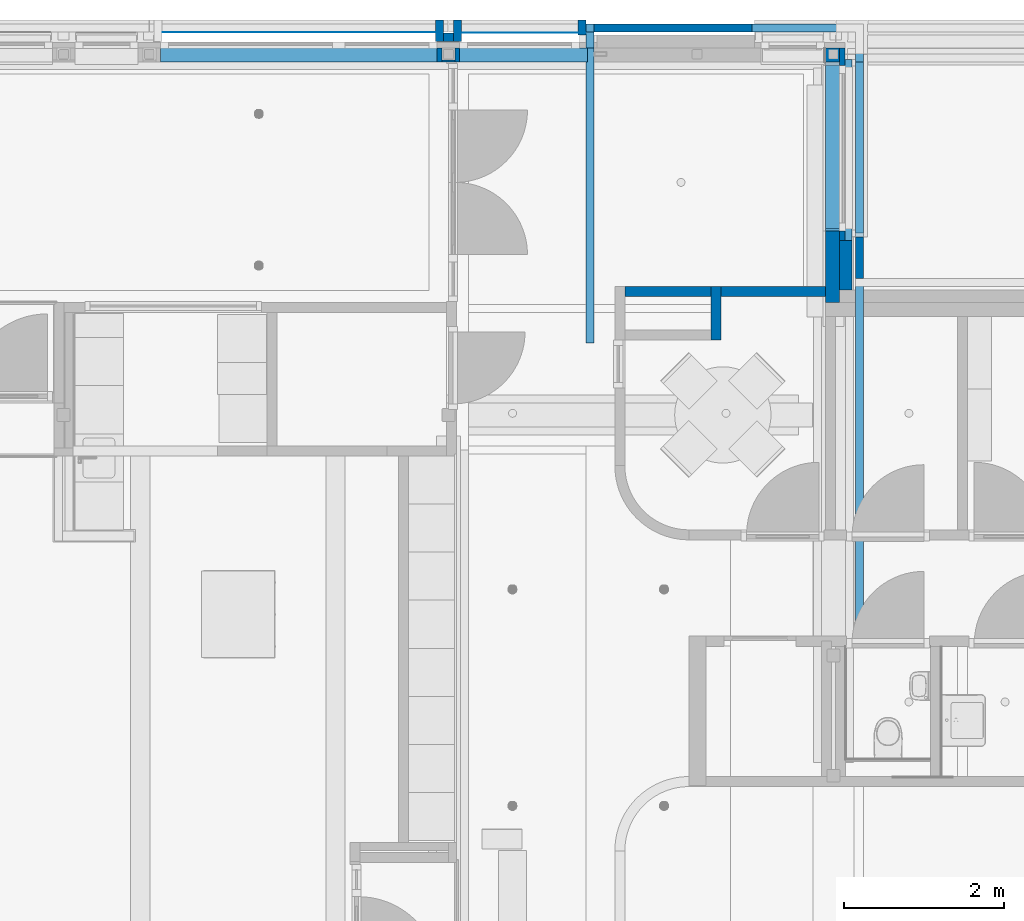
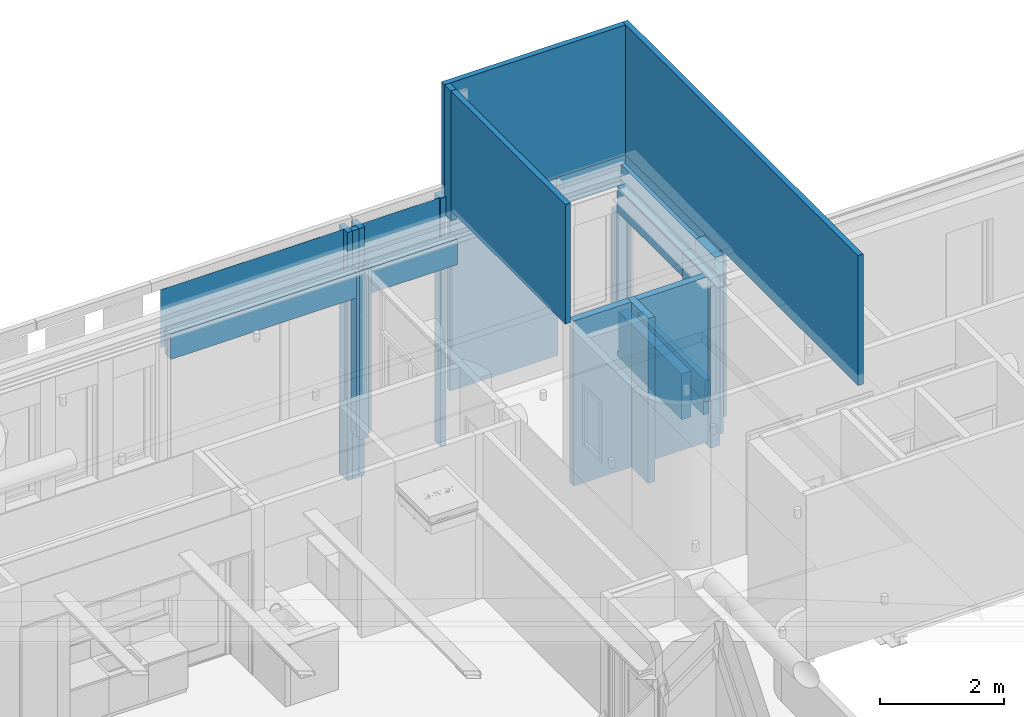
# One storey, part 57 of 128: 29 walls, 10 openings.
"""IFC2X3 building model written with IfcOpenShell, lengths in millimetres."""

import ifcopenshell
import ifcopenshell.guid

model = None  # the IFC model being written
_history = None  # IfcOwnerHistory: only IFC2X3 demands one
_inside = {}  # id of a spatial element -> (the spatial element, [elements in it])
_under = {}  # id of a project, library or spatial element -> (it, [spatial elements below it])
_declared = {}  # id of a project -> (the project, [libraries it declares])
_typed = {}  # id of a type object -> (the type object, [elements of that type])
_made_of = {}  # id of a material, layer set ... -> (it, [elements and type objects made of it])


def new_model(schema):
    """Start an empty IFC model of exactly this schema.

    Asked for "IFC4X3", IfcOpenShell would pick the latest addendum, in which some entities
    have other attributes; the version numbers below select the first issue.
    IFC2X3 requires an IfcOwnerHistory on every rooted entity: one is made here for all.
    """
    global model, _history
    if schema == "IFC4X3":
        model = ifcopenshell.file(schema_version=(4, 3, 0, 0))
    else:
        model = ifcopenshell.file(schema=schema)
    _inside.clear()
    _under.clear()
    _declared.clear()
    _typed.clear()
    _made_of.clear()
    _history = None
    if model.schema == "IFC2X3":
        org = make("IfcOrganization", Name="unknown")
        user = make(
            "IfcPersonAndOrganization",
            ThePerson=make("IfcPerson", FamilyName="unknown"),
            TheOrganization=org,
        )
        app = make(
            "IfcApplication",
            ApplicationDeveloper=org,
            Version="unknown",
            ApplicationFullName="unknown",
            ApplicationIdentifier="unknown",
        )
        _history = make(
            "IfcOwnerHistory",
            OwningUser=user,
            OwningApplication=app,
            ChangeAction="ADDED",
            CreationDate=0,
        )
    return model


def make(cls, **values):
    """One entity of the class cls with the attributes given. An attribute that is None is left unset."""
    return model.create_entity(
        cls, **{name: value for name, value in values.items() if value is not None}
    )


def entity(cls, *values):
    """Any entity or typed value of the class cls, its attributes in the order of the schema. None: left unset."""
    e = model.create_entity(cls)
    for i, value in enumerate(values):
        if value is not None:
            e[i] = value
    return e


def rooted(cls, **values):
    """An entity with a GlobalId (a new one), such as an element, a storey or a relation."""
    return make(cls, GlobalId=ifcopenshell.guid.new(), OwnerHistory=_history, **values)


def si_unit(unit_type, name, prefix=None):
    """IfcSIUnit, for example si_unit("LENGTHUNIT", "METRE", prefix="MILLI")."""
    return make("IfcSIUnit", UnitType=unit_type, Prefix=prefix, Name=name)


def converted_unit(unit_type, name, factor, base, dimensions=None, offset=None):
    """IfcConversionBasedUnit, such as the inch: factor (a typed value) times the base unit."""
    return make(
        "IfcConversionBasedUnit"
        if offset is None
        else "IfcConversionBasedUnitWithOffset",
        ConversionOffset=offset,
        Dimensions=None
        if dimensions is None
        else entity("IfcDimensionalExponents", *dimensions),
        UnitType=unit_type,
        Name=name,
        ConversionFactor=make(
            "IfcMeasureWithUnit", ValueComponent=factor, UnitComponent=base
        ),
    )


def derived_unit(unit_type, elements):
    """IfcDerivedUnit: a product of units, each with its exponent."""
    return make(
        "IfcDerivedUnit",
        Elements=[
            make("IfcDerivedUnitElement", Unit=unit, Exponent=power)
            for unit, power in elements
        ],
        UnitType=unit_type,
    )


def assignment(units):
    """IfcUnitAssignment: the units of a project."""
    return None if units is None else make("IfcUnitAssignment", Units=units)


def point(xyz):
    """IfcCartesianPoint."""
    return None if xyz is None else make("IfcCartesianPoint", Coordinates=xyz)


def direction(xyz):
    """IfcDirection."""
    return None if xyz is None else make("IfcDirection", DirectionRatios=xyz)


def frame(location, z_axis=None, x_axis=None):
    """IfcAxis2Placement3D, a coordinate frame: its origin and axes. An axis left out is left unset."""
    return make(
        "IfcAxis2Placement3D",
        Location=point(location),
        Axis=direction(z_axis),
        RefDirection=direction(x_axis),
    )


def frame_2d(location, x_axis=None):
    """IfcAxis2Placement2D, a coordinate frame in the plane: its origin and x axis."""
    return make(
        "IfcAxis2Placement2D", Location=point(location), RefDirection=direction(x_axis)
    )


def origin():
    """The frame at (0, 0, 0) with its axes left unset."""
    return frame((0.0, 0.0, 0.0))


def place(relative_to, where):
    """IfcLocalPlacement: puts the frame where relative to a parent placement (None: the world)."""
    return make(
        "IfcLocalPlacement", PlacementRelTo=relative_to, RelativePlacement=where
    )


def context(
    kind, dimensions, precision=None, world=None, true_north=None, identifier=None
):
    """IfcGeometricRepresentationContext, for example the 3D "Model" context."""
    return make(
        "IfcGeometricRepresentationContext",
        ContextIdentifier=identifier,
        ContextType=kind,
        CoordinateSpaceDimension=dimensions,
        Precision=precision,
        WorldCoordinateSystem=world,
        TrueNorth=true_north,
    )


def subcontext(parent, identifier, kind, view, scale=None):
    """IfcGeometricRepresentationSubContext, for example "Body" below "Model"."""
    return make(
        "IfcGeometricRepresentationSubContext",
        ContextIdentifier=identifier,
        ContextType=kind,
        ParentContext=parent,
        TargetScale=scale,
        TargetView=view,
    )


def project(units=None, contexts=None):
    """IfcProject with its units and contexts."""
    return rooted(
        "IfcProject",
        Name="project",
        RepresentationContexts=contexts,
        UnitsInContext=assignment(units),
    )


def spatial(cls, under=None, at=None, **own):
    """A site, building, storey or space (cls), placed at a placement, below another one or the project."""
    s = rooted(cls, ObjectPlacement=at, **own)
    if under is not None:
        _under.setdefault(under.id(), (under, []))[1].append(s)
    return s


def polyline(points):
    """IfcPolyline through the points."""
    return make("IfcPolyline", Points=[point(p) for p in points])


def profile(cls, at=None, kind="AREA", **sizes):
    """A parametric profile (cls). Its sizes go by their IFC names, for example OverallWidth=200.0."""
    return make(cls, ProfileType=kind, Position=at, **sizes)


def rectangle(**sizes):
    """IfcRectangleProfileDef."""
    return profile("IfcRectangleProfileDef", **sizes)


def outline(outer, holes=None, kind="AREA"):
    """IfcArbitraryClosedProfileDef: a profile drawn as a closed curve; with holes, ...WithVoids."""
    if holes is None:
        return make("IfcArbitraryClosedProfileDef", ProfileType=kind, OuterCurve=outer)
    return make(
        "IfcArbitraryProfileDefWithVoids",
        ProfileType=kind,
        OuterCurve=outer,
        InnerCurves=holes,
    )


def extrude(swept, where, along, depth):
    """IfcExtrudedAreaSolid: the profile swept, set in the frame where, extruded along a direction by depth."""
    return make(
        "IfcExtrudedAreaSolid",
        SweptArea=swept,
        Position=where,
        ExtrudedDirection=direction(along),
        Depth=depth,
    )


def clip(a, b, op="DIFFERENCE"):
    """IfcBooleanClippingResult: the solid a cut by the half space b."""
    return make(
        "IfcBooleanClippingResult", Operator=op, FirstOperand=a, SecondOperand=b
    )


def bounded_halfspace(plane, agree, where, boundary):
    """IfcPolygonalBoundedHalfSpace: a half space limited to a polygon's prism."""
    return make(
        "IfcPolygonalBoundedHalfSpace",
        BaseSurface=make("IfcPlane", Position=plane),
        AgreementFlag=agree,
        Position=where,
        PolygonalBoundary=boundary,
    )


def shape(context_of_items, identifier, shape_type, items):
    """IfcShapeRepresentation: the items that make up one representation, for example the "Body"."""
    return make(
        "IfcShapeRepresentation",
        ContextOfItems=context_of_items,
        RepresentationIdentifier=identifier,
        RepresentationType=shape_type,
        Items=items,
    )


def material(Name=None, Category=None):
    """IfcMaterial."""
    return make("IfcMaterial", Name=Name, Category=Category)


def layer(
    of_material, thickness, ventilated=None, Name=None, Category=None, Priority=None
):
    """IfcMaterialLayer: one layer of a wall or slab, of a material (None: an air gap)."""
    return make(
        "IfcMaterialLayer",
        Material=of_material,
        LayerThickness=thickness,
        IsVentilated=ventilated,
        Name=Name,
        Category=Category,
        Priority=Priority,
    )


def layer_set(layers, Name=None):
    """IfcMaterialLayerSet."""
    return make("IfcMaterialLayerSet", MaterialLayers=layers, LayerSetName=Name)


def layer_usage(for_layer_set, set_direction, sense, offset, extent=None):
    """IfcMaterialLayerSetUsage: how a layer set lies in its element."""
    return make(
        "IfcMaterialLayerSetUsage",
        ForLayerSet=for_layer_set,
        LayerSetDirection=set_direction,
        DirectionSense=sense,
        OffsetFromReferenceLine=offset,
        ReferenceExtent=extent,
    )


def made_of(thing, what):
    """Note that an element or type object is made of a material, layer set ...; save() writes the relation."""
    if what is not None:
        _made_of.setdefault(what.id(), (what, []))[1].append(thing)
    return thing


def type_object(cls, material=None, **own):
    """A type object (cls), such as IfcWallType, which elements share."""
    return made_of(rooted(cls, **own), material)


def element(
    cls,
    number,
    at=None,
    inside=None,
    cuts=None,
    type_object=None,
    material=None,
    context=None,
    identifier="Body",
    shape_type=None,
    held_by="IfcProductDefinitionShape",
    body=None,
    shapes=None,
    **own,
):
    """One element of the class cls, such as IfcWall. Its Tag is "e" and its number.

    at: its placement. inside: the storey or other place that contains it. cuts: it is an
    opening in that element (IfcRelVoidsElement). A single representation is given by context,
    identifier, shape_type and body (its items); several are given by shapes. held_by: the class
    of the entity that holds the representations. save() writes the other relations.
    """
    e = rooted(cls, Tag="e%d" % number, ObjectPlacement=at, **own)
    if body is not None:
        shapes = [shape(context, identifier, shape_type, body)]
    if shapes is not None:
        e.Representation = make(held_by, Representations=shapes)
    if inside is not None:
        _inside.setdefault(inside.id(), (inside, []))[1].append(e)
    if cuts is not None:
        rooted(
            "IfcRelVoidsElement", RelatingBuildingElement=cuts, RelatedOpeningElement=e
        )
    if type_object is not None:
        _typed.setdefault(type_object.id(), (type_object, []))[1].append(e)
    return made_of(e, material)


def aggregate(whole, parts):
    """IfcRelAggregates: a whole, such as a stair, and the parts it consists of."""
    return rooted("IfcRelAggregates", RelatingObject=whole, RelatedObjects=parts)


def save(model, path):
    """Write the relations noted so far, then the file.

    IfcRelAggregates (storeys below a building ...), IfcRelContainedInSpatialStructure (elements
    in a storey), IfcRelDefinesByType, IfcRelAssociatesMaterial and IfcRelDeclares: one each for
    every whole, place, type object, material and project.
    """
    for whole, parts in _under.values():
        aggregate(whole, parts)
    for where, things in _inside.values():
        rooted(
            "IfcRelContainedInSpatialStructure",
            RelatedElements=things,
            RelatingStructure=where,
        )
    for kind, things in _typed.values():
        rooted("IfcRelDefinesByType", RelatedObjects=things, RelatingType=kind)
    for what, things in _made_of.values():
        rooted("IfcRelAssociatesMaterial", RelatedObjects=things, RelatingMaterial=what)
    for by, libraries in _declared.values():
        rooted("IfcRelDeclares", RelatingContext=by, RelatedDefinitions=libraries)
    model.write(path)


model = new_model("IFC2X3")

# Units and contexts
model_context = context("Model", 3, precision=0.01, world=origin(), true_north=direction((6.123031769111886e-17, 1.0)))
body_context = subcontext(model_context, "Body", "Model", "MODEL_VIEW")
ifc_project = project(units=[si_unit("LENGTHUNIT", "METRE", prefix="MILLI"), si_unit("AREAUNIT", "SQUARE_METRE"), si_unit("VOLUMEUNIT", "CUBIC_METRE"), converted_unit("PLANEANGLEUNIT", "DEGREE", entity("IfcRatioMeasure", 0.017453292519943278), si_unit("PLANEANGLEUNIT", "RADIAN"), dimensions=[0, 0, 0, 0, 0, 0, 0]), si_unit("MASSUNIT", "GRAM", prefix="KILO"), derived_unit("MASSDENSITYUNIT", [(si_unit("MASSUNIT", "GRAM", prefix="KILO"), 1), (si_unit("LENGTHUNIT", "METRE"), -3)]), derived_unit("IONCONCENTRATIONUNIT", [(si_unit("MASSUNIT", "GRAM", prefix="KILO"), 1), (si_unit("LENGTHUNIT", "METRE"), -3)]), derived_unit("MOMENTOFINERTIAUNIT", [(si_unit("LENGTHUNIT", "METRE"), 4)]), si_unit("TIMEUNIT", "SECOND"), si_unit("FREQUENCYUNIT", "HERTZ"), si_unit("THERMODYNAMICTEMPERATUREUNIT", "DEGREE_CELSIUS"), derived_unit("THERMALTRANSMITTANCEUNIT", [(si_unit("MASSUNIT", "GRAM", prefix="KILO"), 1), (si_unit("THERMODYNAMICTEMPERATUREUNIT", "KELVIN"), -1), (si_unit("TIMEUNIT", "SECOND"), -3)]), derived_unit("THERMALCONDUCTANCEUNIT", [(si_unit("MASSUNIT", "GRAM", prefix="KILO"), 1), (si_unit("THERMODYNAMICTEMPERATUREUNIT", "KELVIN"), -1), (si_unit("TIMEUNIT", "SECOND"), -3), (si_unit("LENGTHUNIT", "METRE"), 1)]), derived_unit("VOLUMETRICFLOWRATEUNIT", [(si_unit("LENGTHUNIT", "METRE"), 3), (si_unit("TIMEUNIT", "SECOND"), -1)]), derived_unit("MASSFLOWRATEUNIT", [(si_unit("MASSUNIT", "GRAM", prefix="KILO"), 1), (si_unit("TIMEUNIT", "SECOND"), -1)]), derived_unit("ROTATIONALFREQUENCYUNIT", [(si_unit("TIMEUNIT", "SECOND"), -1)]), si_unit("ELECTRICCURRENTUNIT", "AMPERE"), si_unit("ELECTRICVOLTAGEUNIT", "VOLT"), si_unit("POWERUNIT", "WATT"), si_unit("FORCEUNIT", "NEWTON", prefix="KILO"), si_unit("ILLUMINANCEUNIT", "LUX"), si_unit("LUMINOUSFLUXUNIT", "LUMEN"), si_unit("LUMINOUSINTENSITYUNIT", "CANDELA"), derived_unit("USERDEFINED", [(si_unit("MASSUNIT", "GRAM", prefix="KILO"), -1), (si_unit("LENGTHUNIT", "METRE"), -2), (si_unit("TIMEUNIT", "SECOND"), 3), (si_unit("LUMINOUSFLUXUNIT", "LUMEN"), 1)]), derived_unit("USERDEFINED", [(si_unit("MASSUNIT", "GRAM", prefix="KILO"), 1), (si_unit("TIMEUNIT", "SECOND"), -3), (si_unit("LENGTHUNIT", "METRE"), 3), (si_unit("ELECTRICCURRENTUNIT", "AMPERE"), -2)]), derived_unit("SOUNDPOWERUNIT", [(si_unit("MASSUNIT", "GRAM", prefix="KILO"), 1), (si_unit("TIMEUNIT", "SECOND"), -3), (si_unit("LENGTHUNIT", "METRE"), 2)]), derived_unit("SOUNDPRESSUREUNIT", [(si_unit("MASSUNIT", "GRAM", prefix="KILO"), 1), (si_unit("LENGTHUNIT", "METRE"), -1), (si_unit("TIMEUNIT", "SECOND"), -2)]), derived_unit("LINEARVELOCITYUNIT", [(si_unit("LENGTHUNIT", "METRE"), 1), (si_unit("TIMEUNIT", "SECOND"), -1)]), si_unit("PRESSUREUNIT", "PASCAL"), derived_unit("USERDEFINED", [(si_unit("MASSUNIT", "GRAM", prefix="KILO"), 1), (si_unit("LENGTHUNIT", "METRE"), -2), (si_unit("TIMEUNIT", "SECOND"), -2)]), derived_unit("LINEARFORCEUNIT", [(si_unit("MASSUNIT", "GRAM", prefix="KILO"), 1), (si_unit("TIMEUNIT", "SECOND"), -2)]), derived_unit("PLANARFORCEUNIT", [(si_unit("MASSUNIT", "GRAM", prefix="KILO"), 1), (si_unit("LENGTHUNIT", "METRE"), -1), (si_unit("TIMEUNIT", "SECOND"), -2)]), derived_unit("SPECIFICHEATCAPACITYUNIT", [(si_unit("THERMODYNAMICTEMPERATUREUNIT", "KELVIN"), -1), (si_unit("LENGTHUNIT", "METRE"), 2), (si_unit("TIMEUNIT", "SECOND"), -2)]), derived_unit("HEATINGVALUEUNIT", [(si_unit("LENGTHUNIT", "METRE"), 2), (si_unit("TIMEUNIT", "SECOND"), -2)]), derived_unit("VAPORPERMEABILITYUNIT", [(si_unit("LENGTHUNIT", "METRE"), -1), (si_unit("TIMEUNIT", "SECOND"), 1)]), derived_unit("DYNAMICVISCOSITYUNIT", [(si_unit("MASSUNIT", "GRAM", prefix="KILO"), 1), (si_unit("TIMEUNIT", "SECOND"), -1), (si_unit("LENGTHUNIT", "METRE"), -1)]), derived_unit("THERMALEXPANSIONCOEFFICIENTUNIT", [(si_unit("THERMODYNAMICTEMPERATUREUNIT", "KELVIN"), -1)]), derived_unit("MODULUSOFELASTICITYUNIT", [(si_unit("MASSUNIT", "GRAM", prefix="KILO"), 1), (si_unit("LENGTHUNIT", "METRE"), -1), (si_unit("TIMEUNIT", "SECOND"), -2)]), derived_unit("ISOTHERMALMOISTURECAPACITYUNIT", [(si_unit("LENGTHUNIT", "METRE"), 3), (si_unit("MASSUNIT", "GRAM", prefix="KILO"), -1)]), derived_unit("MOISTUREDIFFUSIVITYUNIT", [(si_unit("TIMEUNIT", "SECOND"), -1), (si_unit("LENGTHUNIT", "METRE"), 2)])], contexts=[model_context])

# Site, building, storey
site_placement = place(None, frame((0.0, 300.0, 0.0)))
site = spatial("IfcSite", under=ifc_project, at=site_placement, Name="<Kadastrale nummers>", CompositionType="ELEMENT")
building_placement = place(site_placement, origin())
building = spatial("IfcBuilding", under=site, at=building_placement, CompositionType="ELEMENT")
storey_placement = place(building_placement, frame((0.0, 0.0, 3560.0000331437)))
storey = spatial("IfcBuildingStorey", under=building, at=storey_placement, Name="01 eerste verdieping", CompositionType="ELEMENT", Elevation=3560.0000331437)

# Walls
ifc_material_1 = material(Name="ISR_Metselwerk")
ifc_layer_1 = layer(ifc_material_1, 100.0)
ifc_layer_set_1 = layer_set([ifc_layer_1], Name="Basic Wall:21_DAT_metselwerk_100")
ifc_layer_usage_1 = layer_usage(ifc_layer_set_1, "AXIS2", "POSITIVE", -50.0)
wall_type_1 = type_object("IfcWallType", Name="Basic Wall:21_DAT_metselwerk_100", PredefinedType="STANDARD", material=ifc_layer_set_1)
wall_1_placement = place(storey_placement, frame((41675.0, 50125.0, 3590.0), z_axis=(0.0, 0.0, 1.0), x_axis=(-1.0, 0.0, 0.0)))
element("IfcWallStandardCase", 1, at=wall_1_placement, inside=storey, type_object=wall_type_1, material=ifc_layer_usage_1, Name="Basic Wall:21_DAT_metselwerk_100", ObjectType="Basic Wall:21_DAT_metselwerk_100", context=body_context, shape_type="SweptSolid", body=[
    extrude(rectangle(XDim=3360.0000000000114, YDim=99.9999999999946, at=frame_2d((1680.0000000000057, -6.039613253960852e-14), x_axis=(-1.0, 0.0))), origin(), (0.0, 0.0, 1.0), 2549.9999649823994),
])
wall_2_placement = place(storey_placement, frame((38365.0, 49875.0, 3590.0), z_axis=(0.0, 0.0, 1.0), x_axis=(0.0, 1.0, 0.0)))
element("IfcWallStandardCase", 2, at=wall_2_placement, inside=storey, type_object=wall_type_1, material=ifc_layer_usage_1, Name="Basic Wall:21_DAT_metselwerk_100", ObjectType="Basic Wall:21_DAT_metselwerk_100", context=body_context, shape_type="SweptSolid", body=[
    extrude(rectangle(XDim=200.00000000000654, YDim=100.00000000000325, at=frame_2d((100.00000000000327, 1.6342482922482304e-13), x_axis=(-1.0, 0.0))), origin(), (0.0, 0.0, 1.0), 2549.9999649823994),
])
wall_3_placement = place(storey_placement, frame((41725.0, 47000.0, 290.0000018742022), z_axis=(0.0, 0.0, 1.0), x_axis=(0.0, 1.0, 0.0)))
element("IfcWallStandardCase", 3, at=wall_3_placement, inside=storey, type_object=wall_type_1, material=ifc_layer_usage_1, Name="Basic Wall:21_DAT_metselwerk_100", ObjectType="Basic Wall:21_DAT_metselwerk_100", context=body_context, shape_type="SweptSolid", body=[
    extrude(rectangle(XDim=515.9999999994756, YDim=99.9999999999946, at=frame_2d((257.9999999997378, 1.1510792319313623e-12), x_axis=(-1.0, 0.0))), origin(), (0.0, 0.0, 1.0), 3299.9999999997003),
])
wall_4_placement = place(storey_placement, frame((41725.0, 47516.0, 290.00000187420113), z_axis=(0.0, 0.0, 1.0), x_axis=(0.0, 1.0, 0.0)))
element("IfcWallStandardCase", 4, at=wall_4_placement, inside=storey, type_object=wall_type_1, material=ifc_layer_usage_1, Name="Basic Wall:21_DAT_metselwerk_100", ObjectType="Basic Wall:21_DAT_metselwerk_100", context=body_context, shape_type="SweptSolid", body=[
    extrude(rectangle(XDim=2183.999999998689, YDim=99.99999999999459, at=frame_2d((1091.9999999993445, 0.0), x_axis=(-1.0, 0.0))), origin(), (0.0, 0.0, 1.0), 425.00000000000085),
])
ifc_layer_usage_2 = layer_usage(ifc_layer_set_1, "AXIS2", "NEGATIVE", 50.0)
wall_5_placement = place(storey_placement, frame((41725.0, 50175.0, 3014.999966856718), z_axis=(0.0, 0.0, 1.0), x_axis=(0.0, -1.0, 0.0)))
element("IfcWallStandardCase", 5, at=wall_5_placement, inside=storey, type_object=wall_type_1, material=ifc_layer_usage_2, Name="Basic Wall:21_DAT_metselwerk_100", ObjectType="Basic Wall:21_DAT_metselwerk_100", context=body_context, shape_type="SweptSolid", body=[
    extrude(rectangle(XDim=2658.9999999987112, YDim=99.9999999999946, at=frame_2d((1329.4999999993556, -1.4210854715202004e-13), x_axis=(-1.0, 0.0))), origin(), (0.0, 0.0, 1.0), 575.0000350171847),
])
wall_6_placement = place(storey_placement, frame((40388.0, 50125.0, 3014.9999668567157)))
element("IfcWallStandardCase", 6, at=wall_6_placement, inside=storey, type_object=wall_type_1, material=ifc_layer_usage_2, Name="Basic Wall:21_DAT_metselwerk_100", ObjectType="Basic Wall:21_DAT_metselwerk_100", context=body_context, shape_type="SweptSolid", body=[
    extrude(rectangle(XDim=1286.9999999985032, YDim=99.99999999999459, at=frame_2d((643.4999999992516, 0.0), x_axis=(-1.0, 0.0))), origin(), (0.0, 0.0, 1.0), 575.0000350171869),
])
wall_7_placement = place(storey_placement, frame((38415.0, 50125.0, 90.00000187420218)))
element("IfcWallStandardCase", 7, at=wall_7_placement, inside=storey, type_object=wall_type_1, material=ifc_layer_usage_2, Name="Basic Wall:21_DAT_metselwerk_100", ObjectType="Basic Wall:21_DAT_metselwerk_100", context=body_context, shape_type="Clipping", body=[
    clip(clip(extrude(rectangle(XDim=2003.0000000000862, YDim=99.99999999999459, at=frame_2d((1001.5000000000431, 0.0), x_axis=(-1.0, 0.0))), origin(), (0.0, 0.0, 1.0), 3499.9999999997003), bounded_halfspace(frame((1973.0, 50.0, 2924.9999649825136), z_axis=(0.0, 0.0, -1.0), x_axis=(0.0, 1.0, 0.0)), True, frame((1973.0, 50.0, 2924.9999649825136), z_axis=(0.0, 0.0, -1.0), x_axis=(0.0, 1.0, 0.0)), polyline([(0.0, 0.0), (0.0, 30.0), (-100.0, 30.0), (-100.0, 0.0), (0.0, 0.0)]))), bounded_halfspace(frame((1973.0, -50.0, 2924.9999649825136), z_axis=(-1.0, 0.0, 0.0), x_axis=(0.0, 1.0, 0.0)), True, frame((1973.0, -50.0, 2924.9999649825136), z_axis=(-1.0, 0.0, 0.0), x_axis=(0.0, 1.0, 0.0)), polyline([(0.0, 0.0), (0.0, -575.0000350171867), (100.0, -575.0000350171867), (100.0, 0.0), (0.0, 0.0)]))),
])
wall_8_placement = place(storey_placement, frame((36490.0, 49960.0, -910.0000331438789), z_axis=(0.0, 0.0, 1.0), x_axis=(0.0, 1.0, 0.0)))
element("IfcWallStandardCase", 8, at=wall_8_placement, inside=storey, type_object=wall_type_1, material=ifc_layer_usage_1, Name="Basic Wall:21_DAT_metselwerk_100", ObjectType="Basic Wall:21_DAT_metselwerk_100", context=body_context, shape_type="SweptSolid", body=[
    extrude(rectangle(XDim=264.9999999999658, YDim=100.00000000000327, at=frame_2d((132.4999999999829, -6.750155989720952e-13), x_axis=(-1.0, 0.0))), origin(), (0.0, 0.0, 1.0), 4875.000000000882),
])
wall_9_placement = place(storey_placement, frame((36540.0, 50010.0, -910.0000331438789)))
element("IfcWallStandardCase", 9, at=wall_9_placement, inside=storey, type_object=wall_type_1, material=ifc_layer_usage_1, Name="Basic Wall:21_DAT_metselwerk_100", ObjectType="Basic Wall:21_DAT_metselwerk_100", context=body_context, shape_type="SweptSolid", body=[
    extrude(rectangle(XDim=120.00000000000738, YDim=99.99999999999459, at=frame_2d((60.00000000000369, 2.064126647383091e-12), x_axis=(-1.0, 0.0))), origin(), (0.0, 0.0, 1.0), 4875.000000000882),
])
wall_10_placement = place(storey_placement, frame((36710.0, 49960.0, -910.0000331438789), z_axis=(0.0, 0.0, 1.0), x_axis=(0.0, 1.0, 0.0)))
element("IfcWallStandardCase", 10, at=wall_10_placement, inside=storey, type_object=wall_type_1, material=ifc_layer_usage_1, Name="Basic Wall:21_DAT_metselwerk_100", ObjectType="Basic Wall:21_DAT_metselwerk_100", context=body_context, shape_type="SweptSolid", body=[
    extrude(rectangle(XDim=264.99999999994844, YDim=100.00000000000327, at=frame_2d((132.49999999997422, -6.750155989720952e-13), x_axis=(-1.0, 0.0))), origin(), (0.0, 0.0, 1.0), 4875.000000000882),
])
wall_11_placement = place(storey_placement, frame((38365.0, 46195.0, 3790.0), z_axis=(0.0, 0.0, 1.0), x_axis=(0.0, 1.0, 0.0)))
element("IfcWallStandardCase", 11, at=wall_11_placement, inside=storey, type_object=wall_type_1, material=ifc_layer_usage_1, Name="Basic Wall:21_DAT_metselwerk_100", ObjectType="Basic Wall:21_DAT_metselwerk_100", context=body_context, shape_type="SweptSolid", body=[
    extrude(rectangle(XDim=3680.0000000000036, YDim=100.00000000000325, at=frame_2d((1840.0000000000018, -1.3251622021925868e-12), x_axis=(-1.0, 0.0))), origin(), (0.0, 0.0, 1.0), 2349.999964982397),
])
wall_12_placement = place(storey_placement, frame((41725.0, 42600.0, 3590.0), z_axis=(0.0, 0.0, 1.0), x_axis=(0.0, 1.0, 0.0)))
element("IfcWallStandardCase", 12, at=wall_12_placement, inside=storey, type_object=wall_type_1, material=ifc_layer_usage_1, Name="Basic Wall:21_DAT_metselwerk_100", ObjectType="Basic Wall:21_DAT_metselwerk_100", context=body_context, shape_type="SweptSolid", body=[
    extrude(rectangle(XDim=7575.000000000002, YDim=99.9999999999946, at=frame_2d((3787.500000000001, -2.469136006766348e-12), x_axis=(-1.0, 0.0))), origin(), (0.0, 0.0, 1.0), 2549.9999649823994),
])
wall_13_placement = place(storey_placement, frame((38265.0, 50035.0, -910.0000331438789), z_axis=(0.0, 0.0, 1.0), x_axis=(0.0, 1.0, 0.0)))
element("IfcWallStandardCase", 13, at=wall_13_placement, inside=storey, type_object=wall_type_1, material=ifc_layer_usage_1, Name="Basic Wall:21_DAT_metselwerk_100", ObjectType="Basic Wall:21_DAT_metselwerk_100", context=body_context, shape_type="SweptSolid", body=[
    extrude(rectangle(XDim=189.99999999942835, YDim=100.00000000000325, at=frame_2d((94.99999999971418, 7.389644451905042e-13), x_axis=(-1.0, 0.0))), origin(), (0.0, 0.0, 1.0), 4875.000000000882),
])
ifc_material_2 = material(Name="ISR_Gips")
ifc_layer_2 = layer(ifc_material_2, 1.0)
ifc_material_3 = material(Name="ISR_Binnenwand")
ifc_layer_3 = layer(ifc_material_3, 123.0)
ifc_layer_4 = layer(ifc_material_2, 1.0)
ifc_layer_set_2 = layer_set([ifc_layer_2, ifc_layer_3, ifc_layer_4], Name="Basic Wall:22_DAT_binnenwand_125")
ifc_layer_usage_3 = layer_usage(ifc_layer_set_2, "AXIS2", "NEGATIVE", 62.50000000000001)
wall_type_2 = type_object("IfcWallType", Name="Basic Wall:22_DAT_binnenwand_125", PredefinedType="STANDARD", material=ifc_layer_set_2)
wall_14_placement = place(storey_placement, frame((41300.0, 46837.49999999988, 90.00000187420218), z_axis=(0.0, 0.0, 1.0), x_axis=(-1.0, 0.0, 0.0)))
element("IfcWallStandardCase", 14, at=wall_14_placement, inside=storey, type_object=wall_type_2, material=ifc_layer_usage_3, Name="Basic Wall:22_DAT_binnenwand_125", ObjectType="Basic Wall:22_DAT_binnenwand_125", context=body_context, shape_type="SweptSolid", body=[
    extrude(rectangle(XDim=2500.0000000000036, YDim=125.00000000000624, at=frame_2d((1250.0000000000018, -5.542233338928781e-13), x_axis=(-1.0, 0.0))), origin(), (0.0, 0.0, 1.0), 3239.9999999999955),
])
wall_15_placement = place(storey_placement, frame((39937.50000000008, 46235.0, 90.0000018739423), z_axis=(0.0, 0.0, 1.0), x_axis=(0.0, 1.0, 0.0)))
element("IfcWallStandardCase", 15, at=wall_15_placement, inside=storey, type_object=wall_type_2, material=ifc_layer_usage_3, Name="Basic Wall:22_DAT_binnenwand_125", ObjectType="Basic Wall:22_DAT_binnenwand_125", context=body_context, shape_type="SweptSolid", body=[
    extrude(rectangle(XDim=665.000000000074, YDim=125.00000000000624, at=frame_2d((332.500000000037, 0.0), x_axis=(-1.0, 0.0))), origin(), (0.0, 0.0, 1.0), 3240.000000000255),
])
ifc_layer_5 = layer(ifc_material_2, 1.0)
ifc_layer_6 = layer(ifc_material_3, 23.0)
ifc_layer_7 = layer(ifc_material_2, 1.0)
ifc_layer_set_3 = layer_set([ifc_layer_5, ifc_layer_6, ifc_layer_7], Name="Basic Wall:22_DAT_binnenwand_25")
ifc_layer_usage_4 = layer_usage(ifc_layer_set_3, "AXIS2", "POSITIVE", -12.499999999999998)
wall_type_3 = type_object("IfcWallType", Name="Basic Wall:22_DAT_binnenwand_25", PredefinedType="STANDARD", material=ifc_layer_set_3)
wall_16_placement = place(storey_placement, frame((36680.0, 49712.49999999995, 20.00000187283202), z_axis=(0.0, 0.0, 1.0), x_axis=(-1.0, 0.0, 0.0)))
element("IfcWallStandardCase", 16, at=wall_16_placement, inside=storey, type_object=wall_type_3, material=ifc_layer_usage_4, Name="Basic Wall:22_DAT_binnenwand_25", ObjectType="Basic Wall:22_DAT_binnenwand_25", context=body_context, shape_type="SweptSolid", body=[
    extrude(rectangle(XDim=159.9999999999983, YDim=24.999999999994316, at=frame_2d((79.99999999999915, -1.2310152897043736e-12), x_axis=(-1.0, 0.0))), origin(), (0.0, 0.0, 1.0), 3310.0000290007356),
])

# Wall, openings
ifc_layer_8 = layer(ifc_material_2, 1.0)
ifc_material_4 = material(Name="ISR_Kalkzandsteen")
ifc_layer_9 = layer(ifc_material_4, 173.0)
ifc_layer_10 = layer(ifc_material_2, 1.0)
ifc_layer_set_4 = layer_set([ifc_layer_8, ifc_layer_9, ifc_layer_10], Name="Basic Wall:28_DAT_kalkzandsteen_175mm")
ifc_layer_usage_5 = layer_usage(ifc_layer_set_4, "AXIS2", "NEGATIVE", 87.49999999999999)
wall_type_4 = type_object("IfcWallType", Name="Basic Wall:28_DAT_kalkzandsteen_175mm", PredefinedType="STANDARD", material=ifc_layer_set_4)
wall_17_placement = place(storey_placement, frame((41475.0, 49787.49999999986, 0.0), z_axis=(0.0, 0.0, 1.0), x_axis=(-1.0, 0.0, 0.0)))
wall_17 = element("IfcWallStandardCase", 17, at=wall_17_placement, inside=storey, type_object=wall_type_4, material=ifc_layer_usage_5, Name="Basic Wall:28_DAT_kalkzandsteen_175mm", ObjectType="Basic Wall:28_DAT_kalkzandsteen_175mm", context=body_context, shape_type="SweptSolid", body=[
    extrude(rectangle(XDim=958.9999999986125, YDim=175.00000000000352, at=frame_2d((479.4999999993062, -4.007461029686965e-12), x_axis=(-1.0, 0.0))), origin(), (0.0, 0.0, 1.0), 2820.0000018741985),
])
opening_1_placement = place(wall_17_placement, origin())
element("IfcOpeningElement", 18, at=opening_1_placement, cuts=wall_17, Name="Basic Wall:28_DAT_kalkzandsteen_175mm", ObjectType="Opening", context=body_context, shape_type="SweptSolid", body=[
    extrude(rectangle(XDim=1929.9999649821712, YDim=789.9999999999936, at=frame_2d((5.684341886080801e-13, 0.0), x_axis=(1.0, 0.0))), frame((581.0, -239.89999999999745, 1864.9999843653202), z_axis=(0.0, 1.0, 0.0), x_axis=(0.0, 0.0, 1.0)), (0.0, 0.0, 1.0), 479.80000000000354),
])
opening_2_placement = place(wall_17_placement, origin())
element("IfcOpeningElement", 19, at=opening_2_placement, cuts=wall_17, Name="Basic Wall:28_DAT_kalkzandsteen_175mm", ObjectType="Opening", context=body_context, shape_type="SweptSolid", body=[
    extrude(rectangle(XDim=3230.0000290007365, YDim=11.000000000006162, at=frame_2d((0.0, -7.363487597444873e-11), x_axis=(1.0, 0.0))), frame((180.50000000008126, -239.89999999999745, 1715.0000163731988), z_axis=(0.0, 1.0, 0.0), x_axis=(0.0, 0.0, 1.0)), (0.0, 0.0, 1.0), 479.80000000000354),
])

wall_18_placement = place(storey_placement, frame((41387.50000000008, 49700.0, 0.0), z_axis=(0.0, 0.0, 1.0), x_axis=(0.0, -1.0, 0.0)))
wall_18 = element("IfcWallStandardCase", 20, at=wall_18_placement, inside=storey, type_object=wall_type_4, material=ifc_layer_usage_5, Name="Basic Wall:28_DAT_kalkzandsteen_175mm", ObjectType="Basic Wall:28_DAT_kalkzandsteen_175mm", context=body_context, shape_type="SweptSolid", body=[
    extrude(rectangle(XDim=2075.999999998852, YDim=175.00000000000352, at=frame_2d((1037.999999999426, -4.334310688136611e-12), x_axis=(-1.0, 0.0))), origin(), (0.0, 0.0, 1.0), 900.0000018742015),
])
opening_3_placement = place(wall_18_placement, origin())
element("IfcOpeningElement", 21, at=opening_3_placement, cuts=wall_18, Name="Basic Wall:28_DAT_kalkzandsteen_175mm", ObjectType="Opening", context=body_context, shape_type="SweptSolid", body=[
    extrude(rectangle(XDim=1930.0000000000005, YDim=2063.9999999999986, at=frame_2d((0.0, 2.8421709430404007e-13), x_axis=(0.0, 1.0))), frame((1072.0, -239.90000000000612, 1865.0), z_axis=(0.0, 1.0, 0.0), x_axis=(-1.0, 0.0, 0.0)), (0.0, 0.0, 1.0), 479.80000000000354),
])
opening_4_placement = place(wall_18_placement, origin())
element("IfcOpeningElement", 22, at=opening_4_placement, cuts=wall_18, Name="Basic Wall:28_DAT_kalkzandsteen_175mm", ObjectType="Opening", context=body_context, shape_type="SweptSolid", body=[
    extrude(outline(polyline([(-1983.3333430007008, -45.0), (-1983.3333430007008, -85.0), (1246.666686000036, -85.0), (1246.666686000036, 130.0), (736.6666570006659, 130.0), (736.6666570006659, -45.0), (-1983.3333430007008, -45.0)])), frame((-45.0, -239.90000000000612, 2083.333344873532), z_axis=(0.0, -1.0, 0.0), x_axis=(0.0, 0.0, 1.0)), (0.0, 0.0, -1.0), 479.80000000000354),
])

wall_19_placement = place(storey_placement, frame((41387.50000000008, 47624.0, 0.0), z_axis=(0.0, 0.0, 1.0), x_axis=(0.0, -1.0, 0.0)))
wall_19 = element("IfcWallStandardCase", 23, at=wall_19_placement, inside=storey, type_object=wall_type_4, material=ifc_layer_usage_5, Name="Basic Wall:28_DAT_kalkzandsteen_175mm", ObjectType="Basic Wall:28_DAT_kalkzandsteen_175mm", context=body_context, shape_type="SweptSolid", body=[
    extrude(rectangle(XDim=923.9999999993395, YDim=175.00000000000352, at=frame_2d((461.99999999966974, -4.334310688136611e-12), x_axis=(-1.0, 0.0))), origin(), (0.0, 0.0, 1.0), 3330.000001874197),
])
opening_5_placement = place(wall_19_placement, origin())
element("IfcOpeningElement", 24, at=opening_5_placement, cuts=wall_19, Name="Basic Wall:28_DAT_kalkzandsteen_175mm", ObjectType="Opening", context=body_context, shape_type="SweptSolid", body=[
    extrude(rectangle(XDim=1930.0000000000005, YDim=2063.9999999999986, at=frame_2d((0.0, 2.8421709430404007e-13), x_axis=(0.0, 1.0))), frame((-1004.0, -239.90000000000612, 1865.0), z_axis=(0.0, 1.0, 0.0), x_axis=(-1.0, 0.0, 0.0)), (0.0, 0.0, 1.0), 479.80000000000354),
])
opening_6_placement = place(wall_19_placement, origin())
element("IfcOpeningElement", 25, at=opening_6_placement, cuts=wall_19, Name="Basic Wall:28_DAT_kalkzandsteen_175mm", ObjectType="Opening", context=body_context, shape_type="SweptSolid", body=[
    extrude(rectangle(XDim=509.98299795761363, YDim=2103.9999999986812, at=frame_2d((-1.0800249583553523e-12, 4.320099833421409e-12), x_axis=(1.0, 0.0))), frame((-1024.0, -239.90000000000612, 3075.0085028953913), z_axis=(0.0, 1.0, 0.0), x_axis=(0.0, 0.0, 1.0)), (0.0, 0.0, 1.0), 479.80000000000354),
])

ifc_material_5 = material(Name="ISR_Isolatie")
ifc_layer_11 = layer(ifc_material_5, 160.0)
ifc_layer_set_5 = layer_set([ifc_layer_11], Name="Basic Wall:21_DAT_isolatie minerale wol_160")
ifc_layer_usage_6 = layer_usage(ifc_layer_set_5, "AXIS2", "NEGATIVE", 80.0)
wall_type_5 = type_object("IfcWallType", Name="Basic Wall:21_DAT_isolatie minerale wol_160", PredefinedType="STANDARD", material=ifc_layer_set_5)
wall_20_placement = place(storey_placement, frame((41555.0, 49730.0, 90.00000187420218), z_axis=(0.0, 0.0, 1.0), x_axis=(0.0, -1.0, 0.0)))
wall_20 = element("IfcWallStandardCase", 26, at=wall_20_placement, inside=storey, type_object=wall_type_5, material=ifc_layer_usage_6, Name="Basic Wall:21_DAT_isolatie minerale wol_160", ObjectType="Basic Wall:21_DAT_isolatie minerale wol_160", context=body_context, shape_type="SweptSolid", body=[
    extrude(rectangle(XDim=2869.9999999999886, YDim=159.9999999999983, at=frame_2d((1434.9999999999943, -3.268496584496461e-13), x_axis=(-1.0, 0.0))), origin(), (0.0, 0.0, 1.0), 3499.9999999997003),
])
opening_7_placement = place(wall_20_placement, origin())
element("IfcOpeningElement", 27, at=opening_7_placement, cuts=wall_20, Name="Basic Wall:21_DAT_isolatie minerale wol_160", ObjectType="Opening", context=body_context, shape_type="SweptSolid", body=[
    extrude(rectangle(XDim=1930.0000000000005, YDim=2063.9999999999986, at=frame_2d((0.0, 2.8421709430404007e-13), x_axis=(0.0, 1.0))), frame((1102.0, -232.4000000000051, 1775.0), z_axis=(0.0, 1.0, 0.0), x_axis=(-1.0, 0.0, 0.0)), (0.0, 0.0, 1.0), 464.7999999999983),
])
opening_8_placement = place(wall_20_placement, origin())
element("IfcOpeningElement", 28, at=opening_8_placement, cuts=wall_20, Name="Basic Wall:21_DAT_isolatie minerale wol_160", ObjectType="Opening", context=body_context, shape_type="SweptSolid", body=[
    extrude(rectangle(XDim=2937.4999999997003, YDim=2399.4999999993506, at=frame_2d((0.0, -4.320099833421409e-12), x_axis=(1.0, 0.0))), frame((1054.750000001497, -232.40000000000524, 2031.2499999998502), z_axis=(0.0, 1.0, 0.0), x_axis=(0.0, 0.0, 1.0)), (0.0, 0.0, 1.0), 464.7999999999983),
])

# Walls
ifc_material_6 = material(Name="DAT_Gasbeton")
ifc_layer_12 = layer(ifc_material_6, 100.0)
ifc_layer_set_6 = layer_set([ifc_layer_12], Name="Basic Wall:21_DAT_gasbeton_100")
ifc_layer_usage_7 = layer_usage(ifc_layer_set_6, "AXIS2", "POSITIVE", -50.0)
wall_type_6 = type_object("IfcWallType", Name="Basic Wall:21_DAT_gasbeton_100", PredefinedType="STANDARD", material=ifc_layer_set_6)
wall_21_placement = place(storey_placement, frame((41725.0, 47566.0, 0.0), z_axis=(0.0, 0.0, 1.0), x_axis=(0.0, 1.0, 0.0)))
element("IfcWallStandardCase", 29, at=wall_21_placement, inside=storey, type_object=wall_type_6, material=ifc_layer_usage_7, Name="Basic Wall:21_DAT_gasbeton_100", ObjectType="Basic Wall:21_DAT_gasbeton_100", context=body_context, shape_type="SweptSolid", body=[
    extrude(rectangle(XDim=2133.999999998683, YDim=99.9999999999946, at=frame_2d((1066.9999999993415, -9.592326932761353e-14), x_axis=(-1.0, 0.0))), origin(), (0.0, 0.0, 1.0), 290.0000000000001),
])
ifc_material_7 = material(Name="STAAL_RAL 7006")
ifc_layer_13 = layer(ifc_material_7, 2.0)
ifc_layer_set_7 = layer_set([ifc_layer_13], Name="Basic Wall:21_DAT_zetwerk_2")
ifc_layer_usage_8 = layer_usage(ifc_layer_set_7, "AXIS2", "POSITIVE", -1.000000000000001)
wall_type_7 = type_object("IfcWallType", Name="Basic Wall:21_DAT_zetwerk_2", PredefinedType="STANDARD", material=ifc_layer_set_7)
wall_22_placement = place(storey_placement, frame((38307.0, 50064.0, 2829.999966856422), z_axis=(0.0, 0.0, 1.0), x_axis=(-1.0, 0.0, 0.0)))
element("IfcWallStandardCase", 30, at=wall_22_placement, inside=storey, type_object=wall_type_7, material=ifc_layer_usage_8, Name="Basic Wall:21_DAT_zetwerk_2", ObjectType="Basic Wall:21_DAT_zetwerk_2", context=body_context, shape_type="SweptSolid", body=[
    extrude(rectangle(XDim=1539.00000000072, YDim=1.9999999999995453, at=frame_2d((769.50000000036, 0.0), x_axis=(-1.0, 0.0))), origin(), (0.0, 0.0, 1.0), 1135.0000000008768),
])
ifc_layer_usage_9 = layer_usage(ifc_layer_set_7, "AXIS2", "NEGATIVE", 1.000000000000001)
wall_23_placement = place(storey_placement, frame((33038.0, 50071.0, 2829.999966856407)))
element("IfcWallStandardCase", 31, at=wall_23_placement, inside=storey, type_object=wall_type_7, material=ifc_layer_usage_9, Name="Basic Wall:21_DAT_zetwerk_2", ObjectType="Basic Wall:21_DAT_zetwerk_2", context=body_context, shape_type="SweptSolid", body=[
    extrude(rectangle(XDim=3393.9999999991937, YDim=1.9999999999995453, at=frame_2d((1696.9999999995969, 0.0), x_axis=(-1.0, 0.0))), origin(), (0.0, 0.0, 1.0), 1135.000000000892),
])

# Wall, opening
ifc_layer_14 = layer(ifc_material_2, 12.5)
ifc_layer_15 = layer(ifc_material_2, 12.5)
ifc_material_8 = material(Name="ISR_Dak_isolatie(198)")
ifc_layer_16 = layer(ifc_material_8, 140.0)
ifc_material_9 = material(Name="ISR_Multiplex")
ifc_layer_17 = layer(ifc_material_9, 10.0)
ifc_layer_set_8 = layer_set([ifc_layer_14, ifc_layer_15, ifc_layer_16, ifc_layer_17], Name="Basic Wall:21_DAT_Hekwerk 175")
ifc_layer_usage_10 = layer_usage(ifc_layer_set_8, "AXIS2", "POSITIVE", -87.5)
wall_type_8 = type_object("IfcWallType", Name="Basic Wall:21_DAT_Hekwerk 175", PredefinedType="STANDARD", material=ifc_layer_set_8)
wall_24_placement = place(storey_placement, frame((41387.50000000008, 49700.0, 2820.017003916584), z_axis=(0.0, 0.0, 1.0), x_axis=(0.0, -1.0, 0.0)))
wall_24 = element("IfcWallStandardCase", 32, at=wall_24_placement, inside=storey, type_object=wall_type_8, material=ifc_layer_usage_10, Name="Basic Wall:21_DAT_Hekwerk 175", ObjectType="Basic Wall:21_DAT_Hekwerk 175", context=body_context, shape_type="SweptSolid", body=[
    extrude(rectangle(XDim=2103.9999999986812, YDim=174.99999999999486, at=frame_2d((1051.9999999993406, 0.0), x_axis=(-1.0, 0.0))), origin(), (0.0, 0.0, 1.0), 509.98299795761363),
])
opening_9_placement = place(wall_24_placement, origin())
element("IfcOpeningElement", 33, at=opening_9_placement, cuts=wall_24, Name="Basic Wall:21_DAT_Hekwerk 175", ObjectType="Opening", context=body_context, shape_type="SweptSolid", body=[
    extrude(rectangle(XDim=1930.0000000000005, YDim=2063.9999999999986, at=frame_2d((0.0, 2.8421709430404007e-13), x_axis=(0.0, 1.0))), frame((1072.0, -239.90000000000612, -955.0170020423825), z_axis=(0.0, 1.0, 0.0), x_axis=(-1.0, 0.0, 0.0)), (0.0, 0.0, 1.0), 479.80000000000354),
])

# Walls
wall_25_placement = place(storey_placement, frame((33010.0, 49787.4999999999, 2829.999966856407)))
element("IfcWallStandardCase", 34, at=wall_25_placement, inside=storey, type_object=wall_type_8, material=ifc_layer_usage_10, Name="Basic Wall:21_DAT_Hekwerk 175", ObjectType="Basic Wall:21_DAT_Hekwerk 175", context=body_context, shape_type="SweptSolid", body=[
    extrude(rectangle(XDim=3449.9999999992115, YDim=174.99999999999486, at=frame_2d((1724.9999999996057, 1.5063505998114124e-12), x_axis=(-1.0, 0.0))), origin(), (0.0, 0.0, 1.0), 500.000064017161),
])
ifc_layer_usage_11 = layer_usage(ifc_layer_set_8, "AXIS2", "NEGATIVE", 87.5)
wall_26_placement = place(storey_placement, frame((38335.0, 49787.499999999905, 2829.999966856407), z_axis=(0.0, 0.0, 1.0), x_axis=(-1.0, 0.0, 0.0)))
element("IfcWallStandardCase", 35, at=wall_26_placement, inside=storey, type_object=wall_type_8, material=ifc_layer_usage_11, Name="Basic Wall:21_DAT_Hekwerk 175", ObjectType="Basic Wall:21_DAT_Hekwerk 175", context=body_context, shape_type="SweptSolid", body=[
    extrude(rectangle(XDim=1594.9999999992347, YDim=174.99999999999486, at=frame_2d((797.4999999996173, 0.0), x_axis=(-1.0, 0.0))), origin(), (0.0, 0.0, 1.0), 500.000064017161),
])
wall_27_placement = place(storey_placement, frame((36520.0, 49787.499999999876, 100.00000187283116), z_axis=(0.0, 0.0, 1.0), x_axis=(-1.0, 0.0, 0.0)))
element("IfcWallStandardCase", 36, at=wall_27_placement, inside=storey, type_object=wall_type_8, material=ifc_layer_usage_11, Name="Basic Wall:21_DAT_Hekwerk 175", ObjectType="Basic Wall:21_DAT_Hekwerk 175", context=body_context, shape_type="SweptSolid", body=[
    extrude(rectangle(XDim=60.00000000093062, YDim=174.99999999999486, at=frame_2d((30.00000000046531, -1.7763568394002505e-13), x_axis=(-1.0, 0.0))), origin(), (0.0, 0.0, 1.0), 3230.0000290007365),
])
wall_28_placement = place(storey_placement, frame((36680.0, 49787.499999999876, 100.00000187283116)))
element("IfcWallStandardCase", 37, at=wall_28_placement, inside=storey, type_object=wall_type_8, material=ifc_layer_usage_10, Name="Basic Wall:21_DAT_Hekwerk 175", ObjectType="Basic Wall:21_DAT_Hekwerk 175", context=body_context, shape_type="SweptSolid", body=[
    extrude(rectangle(XDim=59.99999999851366, YDim=174.99999999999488, at=frame_2d((29.99999999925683, 1.9184653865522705e-13), x_axis=(-1.0, 0.0))), origin(), (0.0, 0.0, 1.0), 3230.0000290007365),
])

# Wall, opening
ifc_layer_18 = layer(ifc_material_5, 70.0)
ifc_layer_set_9 = layer_set([ifc_layer_18], Name="Basic Wall:21_DAT_isolatie hard_74")
ifc_layer_usage_12 = layer_usage(ifc_layer_set_9, "AXIS2", "NEGATIVE", 35.0)
wall_type_9 = type_object("IfcWallType", Name="Basic Wall:21_DAT_isolatie hard_74", PredefinedType="STANDARD", material=ifc_layer_set_9)
wall_29_placement = place(storey_placement, frame((41510.0, 49875.0, 652.5000018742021), z_axis=(0.0, 0.0, 1.0), x_axis=(0.0, -1.0, 0.0)))
wall_29 = element("IfcWallStandardCase", 38, at=wall_29_placement, inside=storey, type_object=wall_type_9, material=ifc_layer_usage_12, Name="Basic Wall:21_DAT_isolatie hard_74", ObjectType="Basic Wall:21_DAT_isolatie hard_74", context=body_context, shape_type="SweptSolid", body=[
    extrude(rectangle(XDim=2399.49999999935, YDim=70.0000000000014, at=frame_2d((1199.749999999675, 0.0), x_axis=(-1.0, 0.0))), origin(), (0.0, 0.0, 1.0), 2937.4999999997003),
])
opening_10_placement = place(wall_29_placement, origin())
element("IfcOpeningElement", 39, at=opening_10_placement, cuts=wall_29, Name="Basic Wall:21_DAT_isolatie hard_74", ObjectType="Opening", context=body_context, shape_type="SweptSolid", body=[
    extrude(rectangle(XDim=1930.0000000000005, YDim=2063.9999999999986, at=frame_2d((0.0, 2.8421709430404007e-13), x_axis=(0.0, 1.0))), frame((1247.0, -187.39999999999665, 1212.4999999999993), z_axis=(0.0, 1.0, 0.0), x_axis=(-1.0, 0.0, 0.0)), (0.0, 0.0, 1.0), 374.80000000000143),
])

save(model, "model.ifc")
